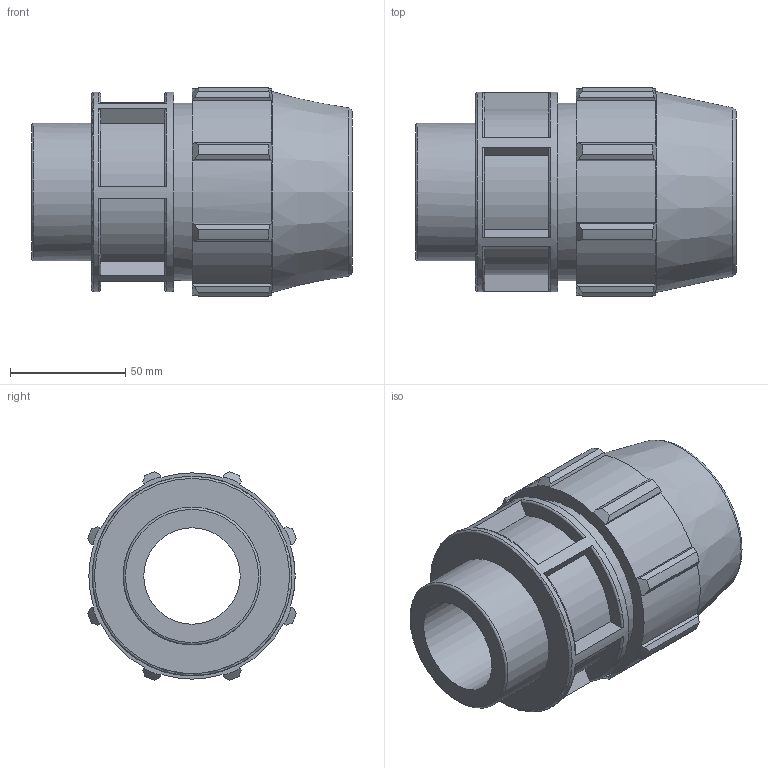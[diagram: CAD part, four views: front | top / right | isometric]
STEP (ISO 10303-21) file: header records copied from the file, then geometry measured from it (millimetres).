
FILE_DESCRIPTION(/* description */ ('PLASSON MALE ADAPTOR 1 1/2'''' - 2''''M'),/* implementation_level */ '2;1');
FILE_NAME(/* name */ 'C:\Dropbox\KIMPROJECTS-Inventor 2019\99-16-3568-Processing Inch\ASTM Compression 2021\0702M0T\0702M0T15020.ipt.stp',/* time_stamp */ '2021-08-26T12:30:25+03:00',/* author */ ('KIM'),/* organization */ (''),/* preprocessor_version */ 'ST-DEVELOPER v17.2',/* originating_system */ 'Autodesk Inventor 2019',/* authorisation */ '');
FILE_SCHEMA (('AUTOMOTIVE_DESIGN { 1 0 10303 214 3 1 1 }'));
Length unit declared in the file: inch
Products named in the file (1): 0702M0T15020
Bounding box: 138.94 x 90.34 x 90.34 mm (x, y, z)
Volume: 425002 mm3; surface area: 71990.7 mm2
Topology: 1 solids, 1 shells, 117 faces, 327 edges, 223 vertices
Faces by surface type: plane 63, cylinder 27, torus 15, cone 12
Full cylindrical faces by diameter (mm): 41.73 x1, 48.1 x1, 59.614 x1, 76.81 x1, 86.411 x1
Entity records: 4135 total; most frequent: CARTESIAN_POINT 948, ORIENTED_EDGE 654, DIRECTION 625, EDGE_CURVE 327, AXIS2_PLACEMENT_3D 236, VERTEX_POINT 223, LINE 153, VECTOR 153
